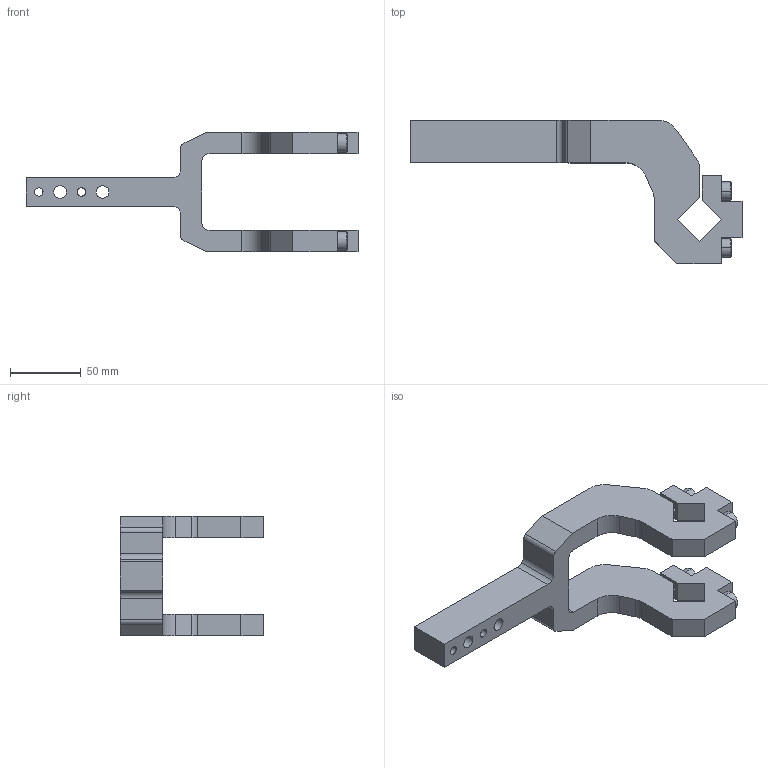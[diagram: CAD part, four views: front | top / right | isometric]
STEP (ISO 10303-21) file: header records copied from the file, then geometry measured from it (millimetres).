
FILE_DESCRIPTION((''),'2;1');
FILE_NAME('S:\Matthew\Step Files\XM Clamp Arms\XJ63-CA-05.stp','2006-06-28T08:15:53',('Matthew'),(''),'Autodesk Inventor 8','Autodesk Inventor 8','');
FILE_SCHEMA(('AUTOMOTIVE_DESIGN { 1 0 10303 214 1 1 1 1 }'));
Length unit declared in the file: millimetre
Products named in the file (1): XJ63-CA-05
Bounding box: 234 x 101 x 84 mm (x, y, z)
Volume: 245440.8 mm3; surface area: 59776.4 mm2
Topology: 1 solids, 3 shells, 154 faces, 398 edges, 256 vertices
Faces by surface type: plane 88, cylinder 34, bspline 24, cone 8
Entity records: 4973 total; most frequent: CARTESIAN_POINT 1209, ORIENTED_EDGE 780, DIRECTION 760, EDGE_CURVE 390, VECTOR 282, LINE 282, VERTEX_POINT 256, AXIS2_PLACEMENT_3D 239
